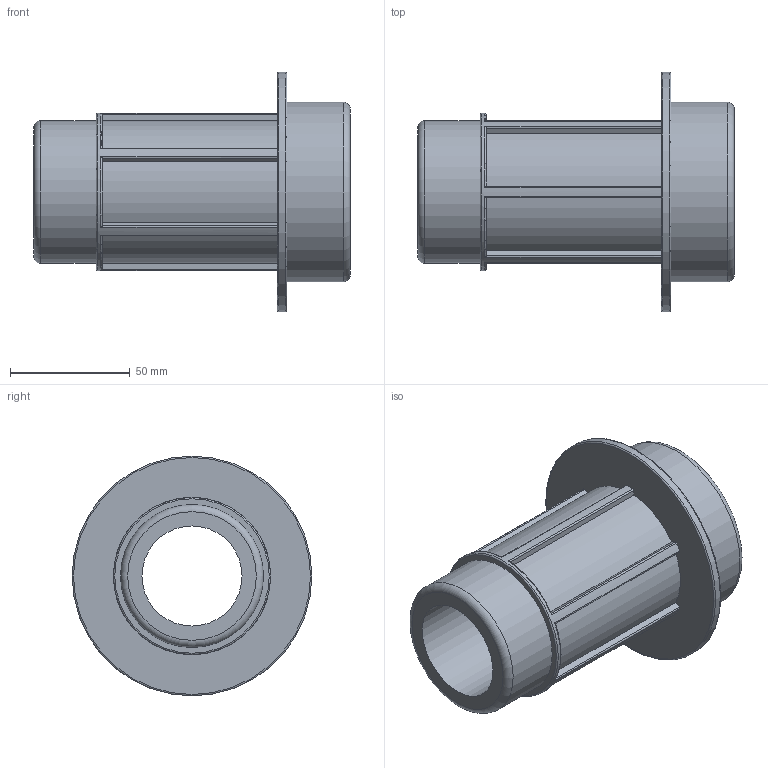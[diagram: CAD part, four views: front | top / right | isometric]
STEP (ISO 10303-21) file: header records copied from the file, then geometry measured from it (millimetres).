
FILE_DESCRIPTION(/* description */ ('PLASSON THREADED MALE ADAPTOR 75-2"'),/* implementation_level */ '2;1');
FILE_NAME(/* name */ 'C:\Dropbox\KIMPROJECTS-Inventor\99-16-3568-Processing\Silver+MF ISRAEL\078901\078901075020.ipt.stp',/* time_stamp */ '2018-04-09T13:02:09+03:00',/* author */ ('KIM'),/* organization */ (''),/* preprocessor_version */ 'ST-DEVELOPER v15.6',/* originating_system */ 'Autodesk Inventor 2015',/* authorisation */ '');
FILE_SCHEMA (('AUTOMOTIVE_DESIGN { 1 0 10303 214 3 1 1 }'));
Length unit declared in the file: millimetre
Products named in the file (1): 078901075020
Bounding box: 132 x 100 x 100 mm (x, y, z)
Volume: 257729.5 mm3; surface area: 59447.6 mm2
Topology: 1 solids, 1 shells, 57 faces, 151 edges, 99 vertices
Faces by surface type: cylinder 23, plane 23, torus 11
Full cylindrical faces by diameter (mm): 41.73 x1, 59.614 x1, 65.575 x1, 75 x1, 100 x1
Entity records: 1894 total; most frequent: CARTESIAN_POINT 488, DIRECTION 288, ORIENTED_EDGE 280, EDGE_CURVE 140, AXIS2_PLACEMENT_3D 114, VERTEX_POINT 98, EDGE_LOOP 72, LINE 60
